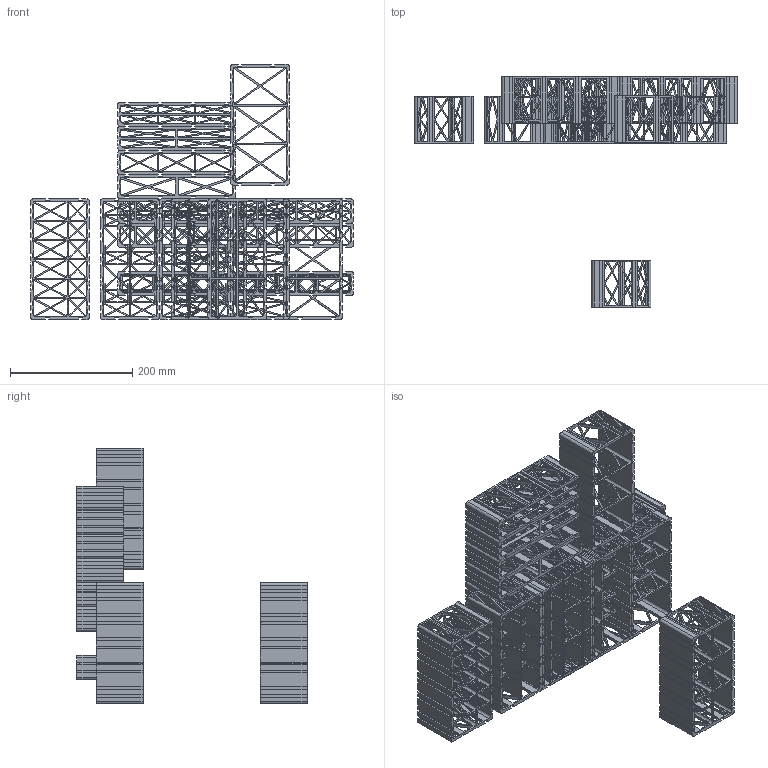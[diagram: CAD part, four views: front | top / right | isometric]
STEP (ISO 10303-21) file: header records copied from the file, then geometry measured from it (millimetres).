
FILE_DESCRIPTION(/* description */ ('STEP AP242','CAx-IF Rec.Pracs.---Representation and Presentation of Product Manufacturing Information (PMI)---4.0---2014-10-13','CAx-IF Rec.Pracs.---3D Tessellated Geometry---0.4---2014-09-14','2;1'),/* implementation_level */ '2;1');
FILE_NAME(/* name */ '64564520a5ed027e9a81c673',/* time_stamp */ '2023-05-06T12:16:41Z',/* author */ (''),/* organization */ (''),/* preprocessor_version */ 'ST-DEVELOPER v19.4',/* originating_system */ ' ',/* authorisation */ ' ');
FILE_SCHEMA (('AP242_MANAGED_MODEL_BASED_3D_ENGINEERING_MIM_LF { 1 0 10303 442 1 1 4 }'));
Products named in the file (19): V-L-M-R; L-M-M-M-M-v2; S-M-M-M-M-M-v2; M-M-M-M-L-v2; M-M-M-M-M-S-v2; LP-S-M-M-M-M-M-v1; LP-M-M-M-M-M-S-v1; XL-XL-v1; XXL-v1; LP-XL-XL-v1; LP-XXl-v1; V-M-M-M-R-v1; V-SS-SS-SS-R-v1; V-M-M-M-L-v1; V-SS-SS-SS-L-v1; WSPL-R; SPL-R; WSPL-L; SPL-L
Bounding box: 527.34 x 376 x 417.5 mm (x, y, z)
Volume: 2675248 mm3; surface area: 2098850.9 mm2
Topology: 19 solids, 19 shells, 7237 faces, 23948 edges, 15536 vertices
Faces by surface type: plane 6717, cylinder 500, torus 20
Entity records: 262529 total; most frequent: ORIENTED_EDGE 47896, CARTESIAN_POINT 46868, DIRECTION 39813, EDGE_CURVE 23948, LINE 22511, VECTOR 22511, VERTEX_POINT 15536, EDGE_LOOP 9204
